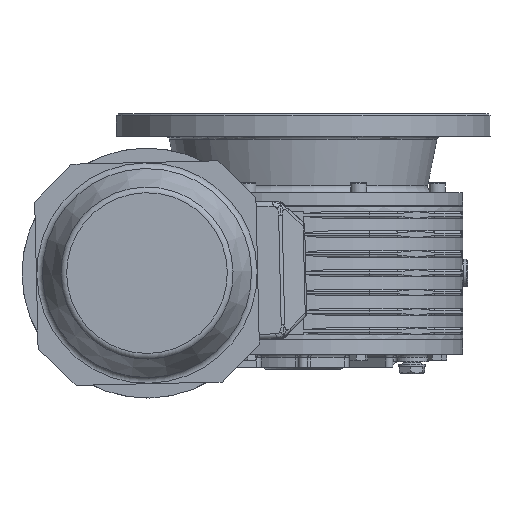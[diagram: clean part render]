
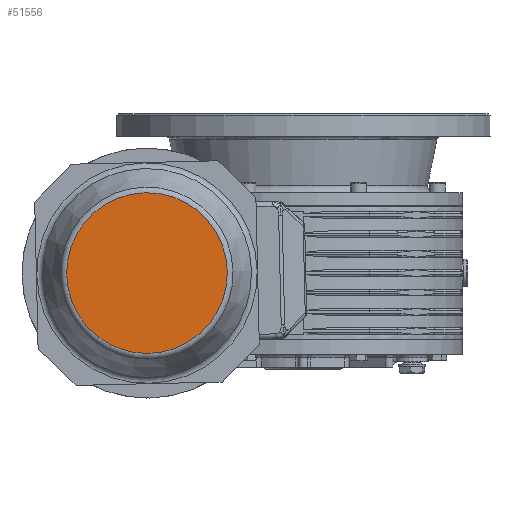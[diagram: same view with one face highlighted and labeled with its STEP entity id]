
A CAD part, left-side view. The second image highlights one B-rep face of the part: STEP entity #51556.
In plain terms, the highlighted planar face has unit normal (-1, 0, 0) as drawn and (1, 0, 0) by its records, which use the part's own axes.
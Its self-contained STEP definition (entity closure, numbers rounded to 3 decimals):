
#51533=CARTESIAN_POINT('',(282.,0.0,64.298));
#51534=VERTEX_POINT('',#51533);
#51535=CARTESIAN_POINT('',(282.,0.0,0.0));
#51536=DIRECTION('',(-1.0,0.0,0.0));
#51537=DIRECTION('',(0.0,0.0,-1.0));
#51538=AXIS2_PLACEMENT_3D('',#51535,#51536,#51537);
#51539=CIRCLE('',#51538,64.298);
#51540=EDGE_CURVE('',#51534,#51534,#51539,.T.);
#51548=CARTESIAN_POINT('',(282.,0.0,33.75));
#51549=DIRECTION('',(1.0,0.0,0.0));
#51550=DIRECTION('',(0.0,0.0,-1.0));
#51551=AXIS2_PLACEMENT_3D('',#51548,#51549,#51550);
#51552=PLANE('',#51551);
#51553=ORIENTED_EDGE('',*,*,#51540,.F.);
#51554=EDGE_LOOP('',(#51553));
#51555=FACE_OUTER_BOUND('',#51554,.T.);
#51556=ADVANCED_FACE('',(#51555),#51552,.T.);
